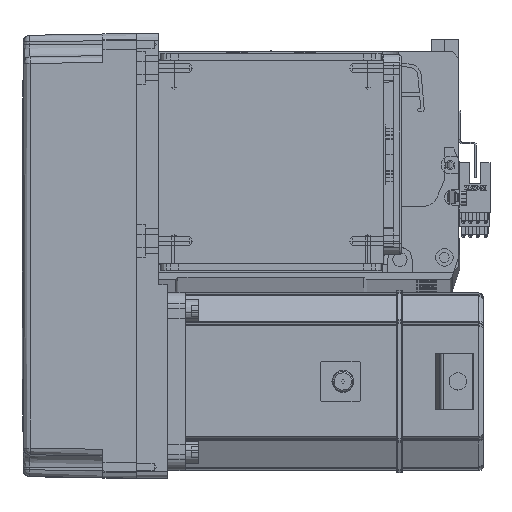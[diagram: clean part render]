
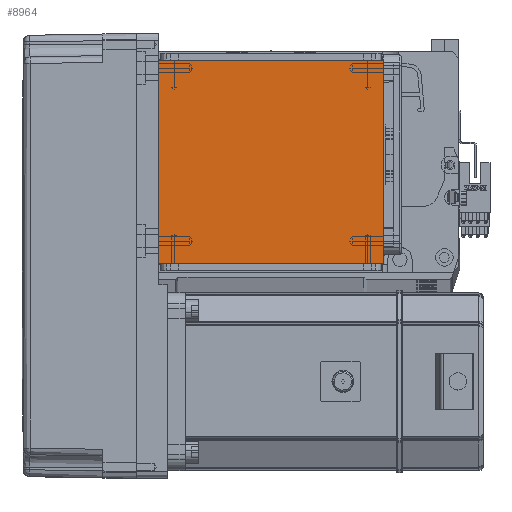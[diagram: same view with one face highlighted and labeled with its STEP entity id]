
A CAD part, top view. The second image highlights one B-rep face of the part: STEP entity #8964.
In plain terms, the highlighted planar face has unit normal (0, 0, 1).
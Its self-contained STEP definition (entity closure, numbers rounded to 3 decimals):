
#2602 = VERTEX_POINT ( 'NONE', #47642 ) ;
#4634 = ORIENTED_EDGE ( 'NONE', *, *, #64916, .F. ) ;
#4899 = LINE ( 'NONE', #68714, #58821 ) ;
#6534 = LINE ( 'NONE', #37859, #66256 ) ;
#8964 = ADVANCED_FACE ( 'NONE', ( #48933 ), #46879, .T. ) ;
#9061 = CARTESIAN_POINT ( 'NONE',  ( -50.5, 111.5, 115. ) ) ;
#15999 = DIRECTION ( 'NONE',  ( 0., -1., 0. ) ) ;
#19400 = DIRECTION ( 'NONE',  ( 0., 0., 1. ) ) ;
#26727 = CARTESIAN_POINT ( 'NONE',  ( -50.5, 20., 115. ) ) ;
#27439 = VERTEX_POINT ( 'NONE', #9061 ) ;
#30010 = CARTESIAN_POINT ( 'NONE',  ( 0., 0., 115. ) ) ;
#30923 = VERTEX_POINT ( 'NONE', #34906 ) ;
#32524 = EDGE_CURVE ( 'NONE', #27439, #33776, #4899, .T. ) ;
#32887 = VECTOR ( 'NONE', #53791, 1000. ) ;
#33354 = CARTESIAN_POINT ( 'NONE',  ( 50.5, 122., 115. ) ) ;
#33776 = VERTEX_POINT ( 'NONE', #26727 ) ;
#34906 = CARTESIAN_POINT ( 'NONE',  ( 50.5, 20., 115. ) ) ;
#36779 = EDGE_LOOP ( 'NONE', ( #66056, #38275, #4634, #42121 ) ) ;
#37859 = CARTESIAN_POINT ( 'NONE',  ( -70.004, 20., 115. ) ) ;
#38275 = ORIENTED_EDGE ( 'NONE', *, *, #32524, .T. ) ;
#38673 = VECTOR ( 'NONE', #44133, 1000. ) ;
#41174 = AXIS2_PLACEMENT_3D ( 'NONE', #30010, #19400, #57002 ) ;
#42121 = ORIENTED_EDGE ( 'NONE', *, *, #68781, .T. ) ;
#44133 = DIRECTION ( 'NONE',  ( 0., 1., 0. ) ) ;
#46879 = PLANE ( 'NONE',  #41174 ) ;
#47642 = CARTESIAN_POINT ( 'NONE',  ( 50.5, 111.5, 115. ) ) ;
#48180 = DIRECTION ( 'NONE',  ( -1., 0., 0. ) ) ;
#48642 = CARTESIAN_POINT ( 'NONE',  ( -70.004, 111.5, 115. ) ) ;
#48933 = FACE_OUTER_BOUND ( 'NONE', #36779, .T. ) ;
#53791 = DIRECTION ( 'NONE',  ( 1., 0., 0. ) ) ;
#57002 = DIRECTION ( 'NONE',  ( 1., 0., 0. ) ) ;
#57267 = LINE ( 'NONE', #48642, #32887 ) ;
#58821 = VECTOR ( 'NONE', #15999, 1000. ) ;
#63263 = EDGE_CURVE ( 'NONE', #27439, #2602, #57267, .T. ) ;
#64916 = EDGE_CURVE ( 'NONE', #30923, #33776, #6534, .T. ) ;
#66056 = ORIENTED_EDGE ( 'NONE', *, *, #63263, .F. ) ;
#66256 = VECTOR ( 'NONE', #48180, 1000. ) ;
#67296 = LINE ( 'NONE', #33354, #38673 ) ;
#68714 = CARTESIAN_POINT ( 'NONE',  ( -50.5, 122., 115. ) ) ;
#68781 = EDGE_CURVE ( 'NONE', #30923, #2602, #67296, .T. ) ;
